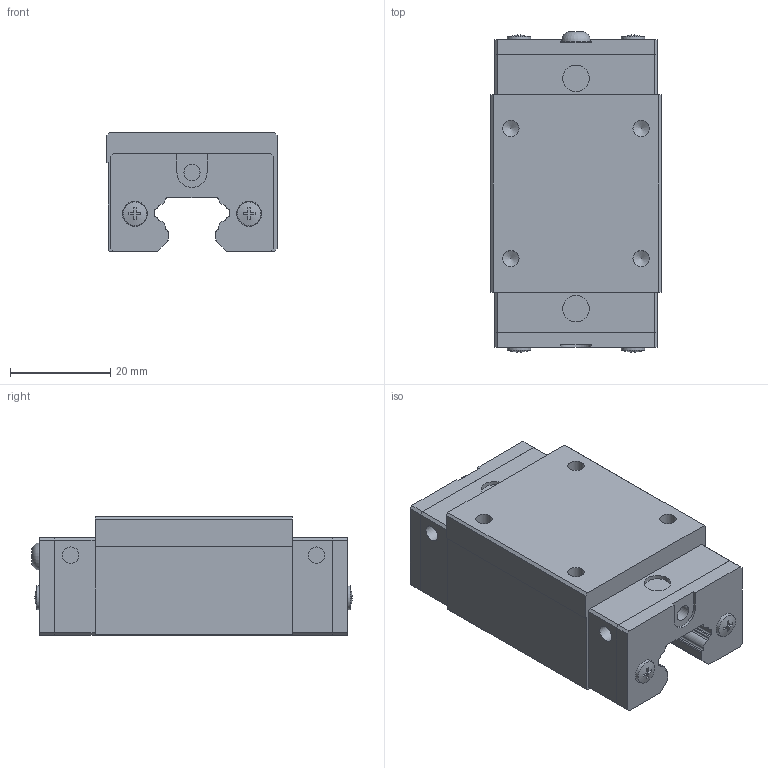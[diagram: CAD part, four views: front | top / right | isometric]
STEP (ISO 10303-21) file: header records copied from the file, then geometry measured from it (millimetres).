
FILE_DESCRIPTION(('STEP AP203'), '1');
FILE_NAME('Ìîäóëü îïîðíûé Hiwin HGH15CAZAC', '', ('UNSPECIFIED'), ('UNSPECIFIED'), 'ASCON STEP Converter 1.6', 'ASCON Math Kernel', '');
FILE_SCHEMA(('CONFIG_CONTROL_DESIGN'));
Length unit declared in the file: millimetre
Bounding box: 34 x 64.1 x 23.7 mm (x, y, z)
Volume: 37253.8 mm3; surface area: 10397.2 mm2
Topology: 1 solids, 4 shells, 240 faces, 636 edges, 420 vertices
Faces by surface type: plane 154, cylinder 71, cone 14, torus 1
Full cylindrical faces by diameter (mm): 2 x2, 2.8 x2, 3.242 x5, 3.3 x4, 4.5 x1, 5 x4, 5.3 x2, 5.8 x1
Entity records: 11354 total; most frequent: CARTESIAN_POINT 3613, ORIENTED_EDGE 1188, DIRECTION 1142, EDGE_CURVE 594, VERTEX_POINT 414, LINE 402, VECTOR 402, AXIS2_PLACEMENT_3D 370
